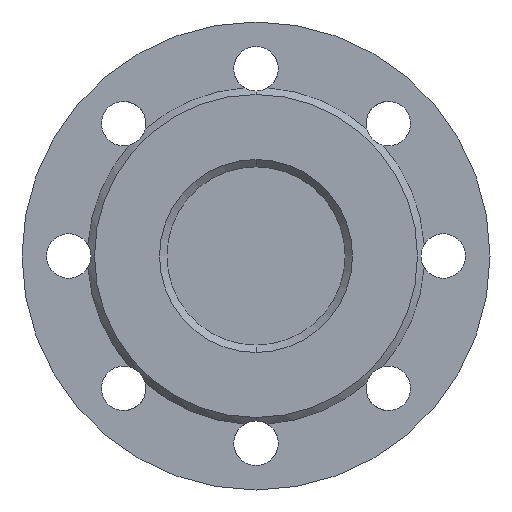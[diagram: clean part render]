
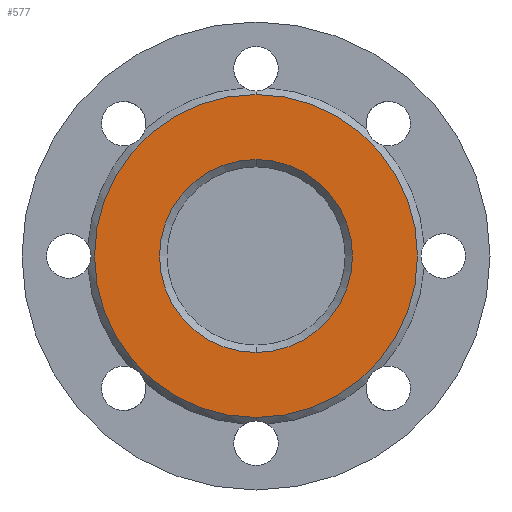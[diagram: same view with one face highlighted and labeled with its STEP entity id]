
A CAD part, front view. The second image highlights one B-rep face of the part: STEP entity #577.
In plain terms, the highlighted planar face has unit normal (0, -1, 0).
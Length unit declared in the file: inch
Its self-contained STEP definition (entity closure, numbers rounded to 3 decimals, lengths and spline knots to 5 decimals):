
#14 = CIRCLE ( 'NONE', #1450, 1.624 ) ;
#73 = ORIENTED_EDGE ( 'NONE', *, *, #726, .F. ) ;
#84 = DIRECTION ( 'NONE',  ( 0., 0., -1. ) ) ;
#225 = DIRECTION ( 'NONE',  ( 0., 0., 1. ) ) ;
#228 = CARTESIAN_POINT ( 'NONE',  ( 0., -0.5115, -1.624 ) ) ;
#303 = VERTEX_POINT ( 'NONE', #228 ) ;
#320 = AXIS2_PLACEMENT_3D ( 'NONE', #1211, #334, #1349 ) ;
#331 = EDGE_LOOP ( 'NONE', ( #775, #820 ) ) ;
#334 = DIRECTION ( 'NONE',  ( 0., -1., 0. ) ) ;
#376 = ORIENTED_EDGE ( 'NONE', *, *, #872, .F. ) ;
#402 = EDGE_LOOP ( 'NONE', ( #376, #73 ) ) ;
#426 = CARTESIAN_POINT ( 'NONE',  ( 0., -0.5115, 0. ) ) ;
#439 = CIRCLE ( 'NONE', #679, 2.7165 ) ;
#485 = CIRCLE ( 'NONE', #963, 1.624 ) ;
#572 = DIRECTION ( 'NONE',  ( 0., 0., -1. ) ) ;
#577 = ADVANCED_FACE ( 'NONE', ( #658, #744 ), #1668, .F. ) ;
#658 = FACE_BOUND ( 'NONE', #402, .T. ) ;
#677 = CARTESIAN_POINT ( 'NONE',  ( 2.7165, -0.5115, 0. ) ) ;
#679 = AXIS2_PLACEMENT_3D ( 'NONE', #1669, #821, #1822 ) ;
#698 = EDGE_CURVE ( 'NONE', #876, #925, #439, .T. ) ;
#726 = EDGE_CURVE ( 'NONE', #1091, #303, #485, .T. ) ;
#744 = FACE_OUTER_BOUND ( 'NONE', #331, .T. ) ;
#775 = ORIENTED_EDGE ( 'NONE', *, *, #698, .T. ) ;
#820 = ORIENTED_EDGE ( 'NONE', *, *, #1125, .T. ) ;
#821 = DIRECTION ( 'NONE',  ( 0., -1., 0. ) ) ;
#872 = EDGE_CURVE ( 'NONE', #303, #1091, #14, .T. ) ;
#876 = VERTEX_POINT ( 'NONE', #1581 ) ;
#925 = VERTEX_POINT ( 'NONE', #1729 ) ;
#963 = AXIS2_PLACEMENT_3D ( 'NONE', #1831, #965, #84 ) ;
#965 = DIRECTION ( 'NONE',  ( 0., -1., 0. ) ) ;
#1052 = CARTESIAN_POINT ( 'NONE',  ( 0., -0.5115, 1.624 ) ) ;
#1091 = VERTEX_POINT ( 'NONE', #1052 ) ;
#1106 = DIRECTION ( 'NONE',  ( 0., 1., 0. ) ) ;
#1125 = EDGE_CURVE ( 'NONE', #925, #876, #1457, .T. ) ;
#1211 = CARTESIAN_POINT ( 'NONE',  ( 0., -0.5115, 0. ) ) ;
#1349 = DIRECTION ( 'NONE',  ( 0., 0., -1. ) ) ;
#1387 = AXIS2_PLACEMENT_3D ( 'NONE', #677, #1106, #225 ) ;
#1438 = DIRECTION ( 'NONE',  ( 0., -1., 0. ) ) ;
#1450 = AXIS2_PLACEMENT_3D ( 'NONE', #426, #1438, #572 ) ;
#1457 = CIRCLE ( 'NONE', #320, 2.7165 ) ;
#1581 = CARTESIAN_POINT ( 'NONE',  ( 0., -0.5115, 2.7165 ) ) ;
#1668 = PLANE ( 'NONE',  #1387 ) ;
#1669 = CARTESIAN_POINT ( 'NONE',  ( 0., -0.5115, 0. ) ) ;
#1729 = CARTESIAN_POINT ( 'NONE',  ( 0., -0.5115, -2.7165 ) ) ;
#1822 = DIRECTION ( 'NONE',  ( 0., 0., -1. ) ) ;
#1831 = CARTESIAN_POINT ( 'NONE',  ( 0., -0.5115, 0. ) ) ;
